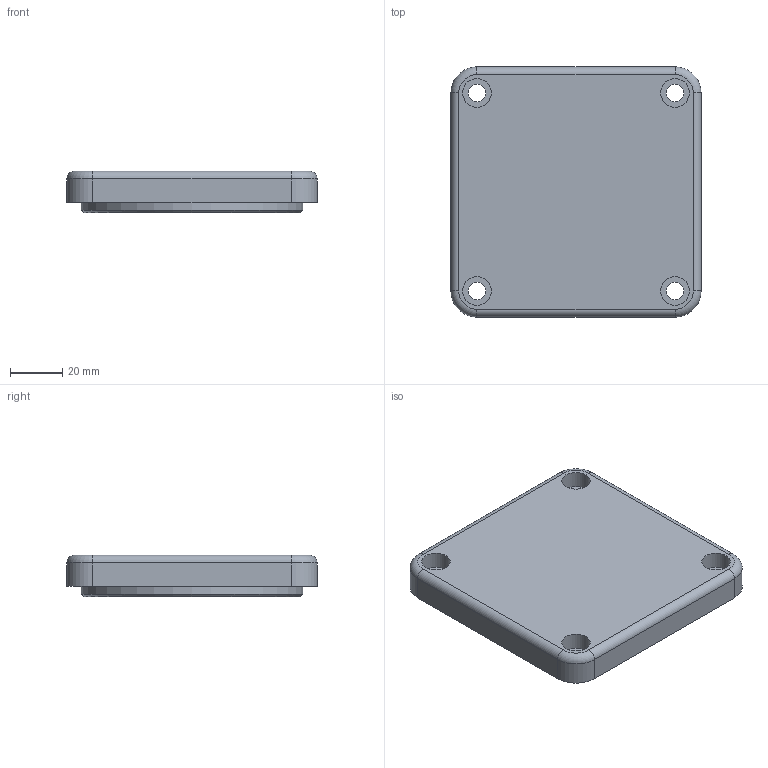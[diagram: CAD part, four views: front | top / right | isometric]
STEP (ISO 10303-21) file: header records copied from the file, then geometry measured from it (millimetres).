
FILE_DESCRIPTION(/* description */ (''),/* implementation_level */ '2;1');
FILE_NAME(/* name */ '',/* time_stamp */ '2025-05-23T15:47:12+09:00',/* author */ ('jhkim'),/* organization */ (''),/* preprocessor_version */ 'ST-DEVELOPER v20.1',/* originating_system */ 'Autodesk Inventor 2026',/* authorisation */ '');
FILE_SCHEMA (('AUTOMOTIVE_DESIGN { 1 0 10303 214 3 1 1 }'));
Length unit declared in the file: millimetre
Products named in the file (1): 뒷커버
Bounding box: 96 x 96 x 16 mm (x, y, z)
Volume: 114668.4 mm3; surface area: 24593.1 mm2
Topology: 1 solids, 1 shells, 35 faces, 72 edges, 45 vertices
Faces by surface type: cylinder 17, plane 12, torus 5, cone 1
Full cylindrical faces by diameter (mm): 6.6 x4, 11 x4, 85 x1
Entity records: 995 total; most frequent: DIRECTION 186, CARTESIAN_POINT 153, ORIENTED_EDGE 144, AXIS2_PLACEMENT_3D 78, EDGE_CURVE 72, EDGE_LOOP 49, VERTEX_POINT 45, CIRCLE 42
